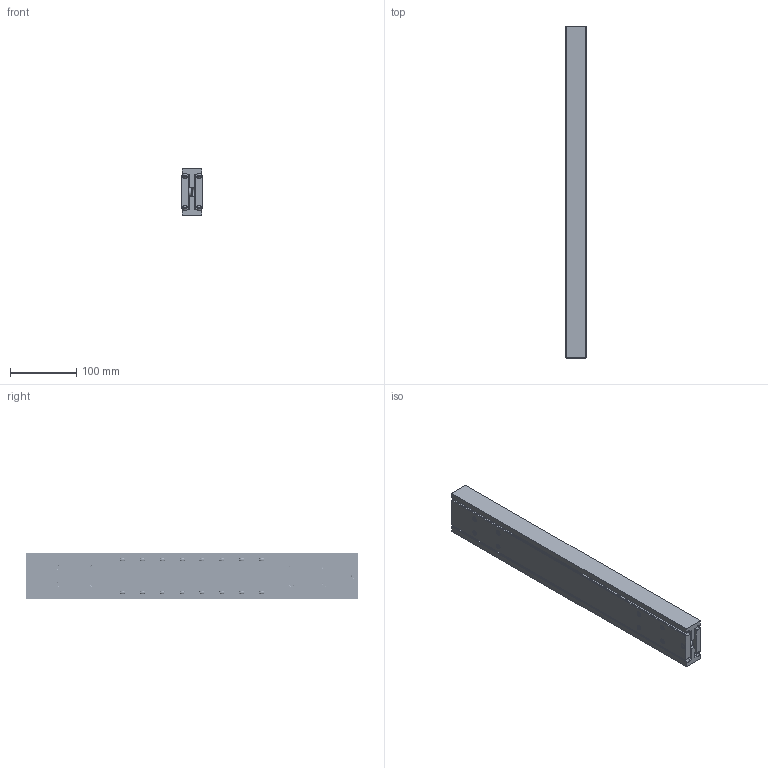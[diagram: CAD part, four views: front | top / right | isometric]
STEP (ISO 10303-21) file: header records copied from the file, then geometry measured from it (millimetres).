
FILE_DESCRIPTION(/* description */ (''),/* implementation_level */ '2;1');
FILE_NAME(/* name */ 'D:\Zeichnungen Schienen Komplett\MX-DTP70\MX-DTP70.050\MX-DTP70.050_eingefahren.step',/* time_stamp */ '2022-08-30T08:50:36+02:00',/* author */ ('zmile'),/* organization */ (''),/* preprocessor_version */ 'ST-DEVELOPER v16.13',/* originating_system */ 'AutoCAD Mechanical',/* authorisation */ '');
FILE_SCHEMA (('AUTOMOTIVE_DESIGN { 1 0 10303 214 3 1 1 }'));
Products named in the file (1): Product
Bounding box: 32 x 500 x 70 mm (x, y, z)
Volume: 884130.1 mm3; surface area: 320230.4 mm2
Topology: 39 solids, 39 shells, 250 faces, 688 edges, 456 vertices
Faces by surface type: plane 86, cylinder 64, bspline 62, sphere 32, torus 6
Full cylindrical faces by diameter (mm): 9 x32, 13 x2
Entity records: 135629 total; most frequent: CARTESIAN_POINT 129907, ORIENTED_EDGE 1164, DIRECTION 934, EDGE_CURVE 582, VERTEX_POINT 454, EDGE_LOOP 394, AXIS2_PLACEMENT_3D 361, FACE_OUTER_BOUND 250
